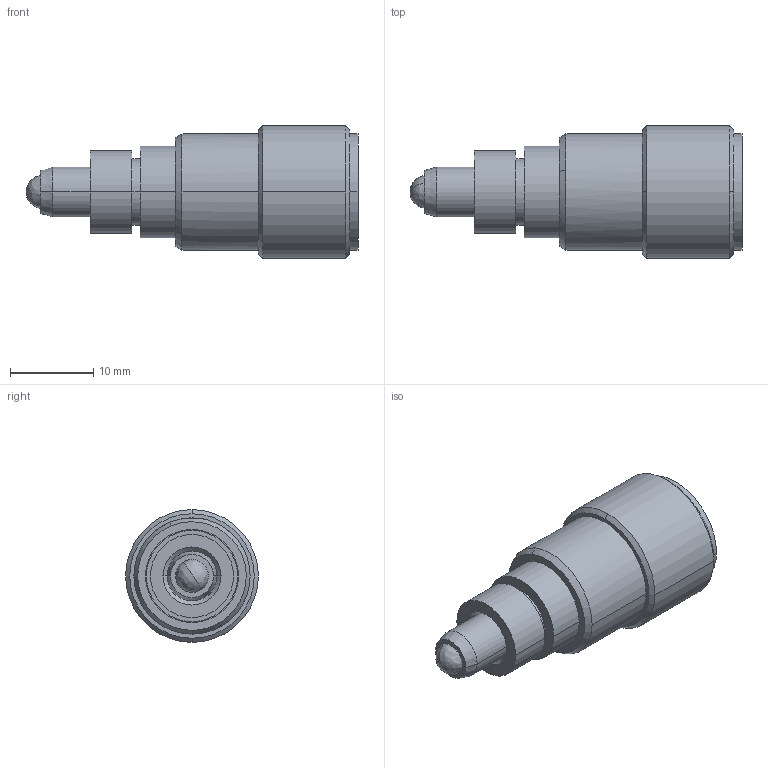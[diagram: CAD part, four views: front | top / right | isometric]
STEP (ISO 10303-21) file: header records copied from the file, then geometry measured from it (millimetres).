
FILE_DESCRIPTION (( 'STEP AP203' ), '1' );
FILE_NAME ('9S65M.STEP', '2007-04-02T13:28:59', ( 'STANDA' ), ( '' ), 'SwSTEP 2.0', 'SolidWorks 2003240', '' );
FILE_SCHEMA (( 'CONFIG_CONTROL_DESIGN' ));
Length unit declared in the file: millimetre
Products named in the file (1): 9S65M
Bounding box: 39.99 x 16 x 16 mm (x, y, z)
Volume: 4449.4 mm3; surface area: 2896.3 mm2
Topology: 1 solids, 2 shells, 171 faces, 437 edges, 289 vertices
Faces by surface type: bspline 73, plane 59, cylinder 26, cone 13
Entity records: 6942 total; most frequent: CARTESIAN_POINT 3151, ORIENTED_EDGE 870, DIRECTION 565, EDGE_CURVE 435, VERTEX_POINT 289, LINE 215, VECTOR 215, EDGE_LOOP 192
